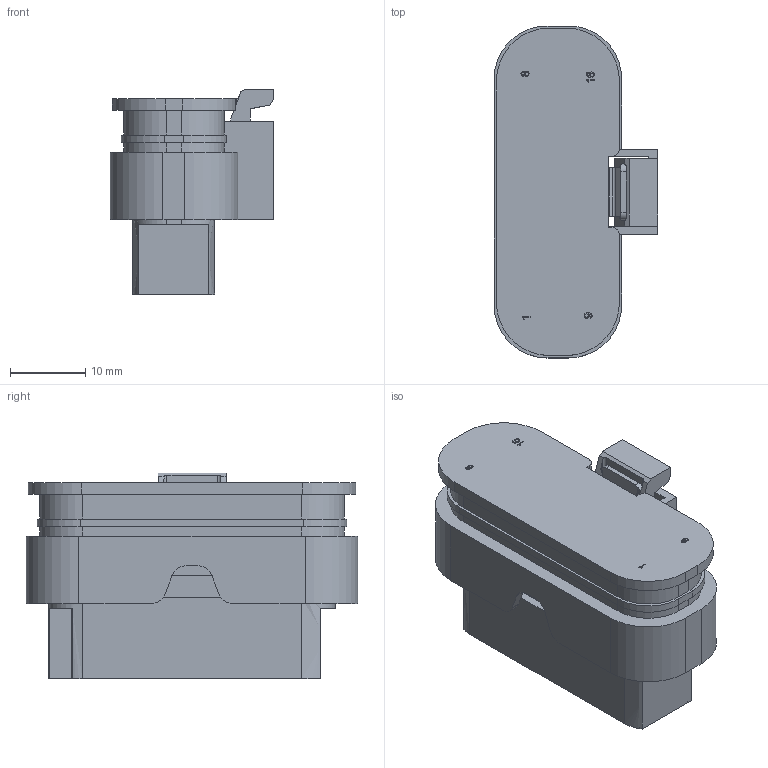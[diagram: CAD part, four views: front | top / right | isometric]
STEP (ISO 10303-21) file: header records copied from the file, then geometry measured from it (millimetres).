
FILE_DESCRIPTION(('CATIA V5 STEP Exchange','CAx-IF Rec.Pracs.--- Model Styling and Organization---1.5--- 2016-08-15','CAx-IF Rec.Pracs.---Supplemental Geometry---1.0---2011-11-01','CAx-IF Rec.Pracs.--- Composite Materials ---3.4---2017-06-13','CAx-IF Rec.Pracs.---Tessellated 3D Geometry---1.0---2015-12-17'),'2;1');
FILE_NAME('D:\SEAL\applications\data\dpf\dpfjob202405281344171366\in\100000657748_ces_000.CATPart.stp','2024-05-28T11:44:31+00:00',('none'),('none'),'CATIA Version 5-6 Release 2022 SP3 HF26','CATIA V5 STEP AP242 v2','none');
FILE_SCHEMA(('AP242_MANAGED_MODEL_BASED_3D_ENGINEERING_MIM_LF {1 0 10303 442 1 1 4}'));
Length unit declared in the file: millimetre
Products named in the file (1): 805-587-541_CES_805-587_16way 1.2 SealStar FA Con_V1_100000140251_PAS_02
Bounding box: 21.7 x 44 x 27.3 mm (x, y, z)
Volume: 12300 mm3; surface area: 7823.3 mm2
Topology: 1 solids, 1 shells, 702 faces, 2042 edges, 1357 vertices
Faces by surface type: plane 628, cylinder 62, extrusion 8, cone 4
Entity records: 22629 total; most frequent: CARTESIAN_POINT 4506, ORIENTED_EDGE 4084, DIRECTION 3197, EDGE_CURVE 2042, VECTOR 1888, LINE 1880, VERTEX_POINT 1357, EDGE_LOOP 729
